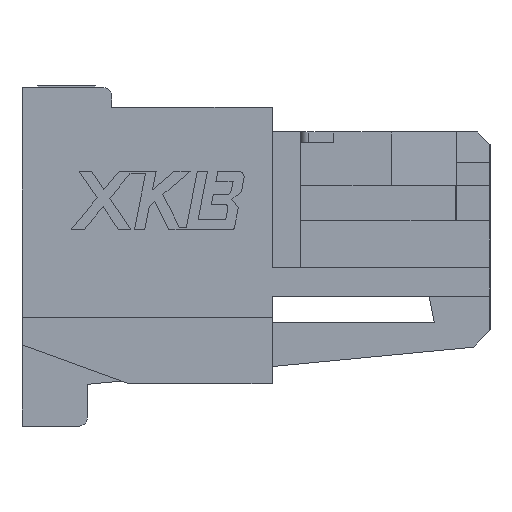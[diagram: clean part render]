
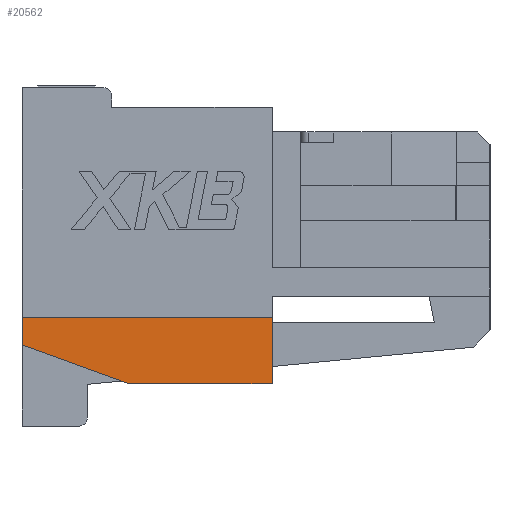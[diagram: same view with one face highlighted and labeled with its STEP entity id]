
A CAD part, left-side view. The second image highlights one B-rep face of the part: STEP entity #20562.
In plain terms, the highlighted planar face has unit normal (-1, 0, 0).
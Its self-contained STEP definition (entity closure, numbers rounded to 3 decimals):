
#1419 = CARTESIAN_POINT ( 'NONE',  ( -6.875, 4.404, -3.606 ) ) ;
#3387 = LINE ( 'NONE', #14047, #16431 ) ;
#4422 = VERTEX_POINT ( 'NONE', #11596 ) ;
#4787 = EDGE_CURVE ( 'NONE', #4422, #24589, #12905, .T. ) ;
#5631 = EDGE_CURVE ( 'NONE', #16014, #4422, #10305, .T. ) ;
#6023 = CARTESIAN_POINT ( 'NONE',  ( -6.875, 0., -2.8 ) ) ;
#7065 = ORIENTED_EDGE ( 'NONE', *, *, #25838, .T. ) ;
#7180 = CARTESIAN_POINT ( 'NONE',  ( -6.875, 2.654, -3.606 ) ) ;
#7631 = ORIENTED_EDGE ( 'NONE', *, *, #19498, .F. ) ;
#7799 = DIRECTION ( 'NONE',  ( 0., 1., 0. ) ) ;
#7953 = ORIENTED_EDGE ( 'NONE', *, *, #5631, .F. ) ;
#7985 = EDGE_LOOP ( 'NONE', ( #7065, #7631, #13289, #7953, #21682 ) ) ;
#8732 = DIRECTION ( 'NONE',  ( 0., 1., 0. ) ) ;
#9411 = CARTESIAN_POINT ( 'NONE',  ( -6.875, 5.7, -2.8 ) ) ;
#9572 = DIRECTION ( 'NONE',  ( 0., 0.94, 0.342 ) ) ;
#9599 = LINE ( 'NONE', #7180, #15638 ) ;
#9660 = CARTESIAN_POINT ( 'NONE',  ( -6.875, 2.654, -2.8 ) ) ;
#10305 = LINE ( 'NONE', #18862, #22092 ) ;
#10993 = VERTEX_POINT ( 'NONE', #9660 ) ;
#11596 = CARTESIAN_POINT ( 'NONE',  ( -6.875, 4.404, -3.606 ) ) ;
#11624 = FACE_OUTER_BOUND ( 'NONE', #7985, .T. ) ;
#12479 = CARTESIAN_POINT ( 'NONE',  ( -6.875, 5.7, -3.134 ) ) ;
#12905 = LINE ( 'NONE', #1419, #16074 ) ;
#13282 = DIRECTION ( 'NONE',  ( 0., 0., 1. ) ) ;
#13289 = ORIENTED_EDGE ( 'NONE', *, *, #4787, .F. ) ;
#14047 = CARTESIAN_POINT ( 'NONE',  ( -6.875, 2.654, -2.8 ) ) ;
#14424 = CARTESIAN_POINT ( 'NONE',  ( -6.875, 2.654, -3.606 ) ) ;
#15638 = VECTOR ( 'NONE', #13282, 1000. ) ;
#16014 = VERTEX_POINT ( 'NONE', #14424 ) ;
#16074 = VECTOR ( 'NONE', #9572, 1000. ) ;
#16431 = VECTOR ( 'NONE', #21877, 1000. ) ;
#17939 = DIRECTION ( 'NONE',  ( 1., 0., 0. ) ) ;
#18686 = VECTOR ( 'NONE', #22751, 1000. ) ;
#18862 = CARTESIAN_POINT ( 'NONE',  ( -6.875, 2.654, -3.606 ) ) ;
#19498 = EDGE_CURVE ( 'NONE', #24589, #24085, #24054, .T. ) ;
#20175 = AXIS2_PLACEMENT_3D ( 'NONE', #6023, #17939, #7799 ) ;
#20562 = ADVANCED_FACE ( 'NONE', ( #11624 ), #25973, .F. ) ;
#21682 = ORIENTED_EDGE ( 'NONE', *, *, #22734, .T. ) ;
#21877 = DIRECTION ( 'NONE',  ( 0., 1., 0. ) ) ;
#22092 = VECTOR ( 'NONE', #8732, 1000. ) ;
#22734 = EDGE_CURVE ( 'NONE', #16014, #10993, #9599, .T. ) ;
#22751 = DIRECTION ( 'NONE',  ( 0., 0., 1. ) ) ;
#24054 = LINE ( 'NONE', #12479, #18686 ) ;
#24085 = VERTEX_POINT ( 'NONE', #9411 ) ;
#24589 = VERTEX_POINT ( 'NONE', #25177 ) ;
#25177 = CARTESIAN_POINT ( 'NONE',  ( -6.875, 5.7, -3.134 ) ) ;
#25838 = EDGE_CURVE ( 'NONE', #10993, #24085, #3387, .T. ) ;
#25973 = PLANE ( 'NONE',  #20175 ) ;
